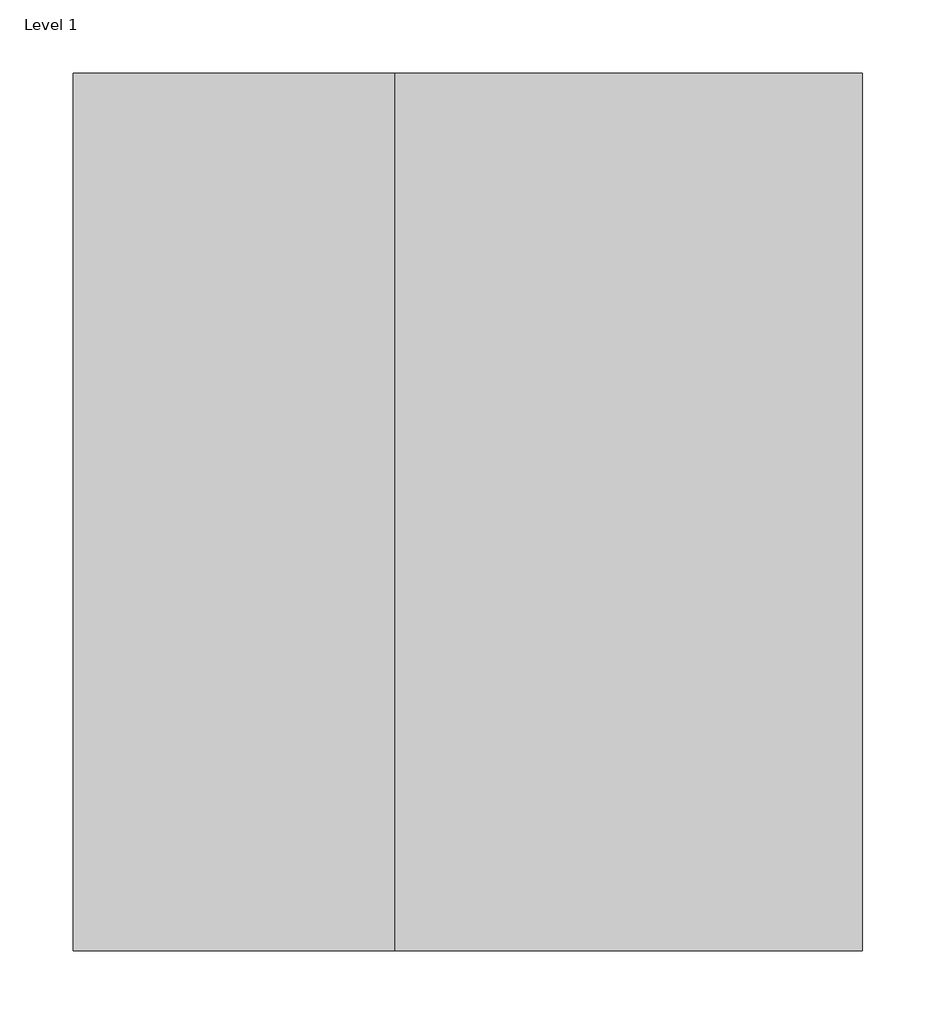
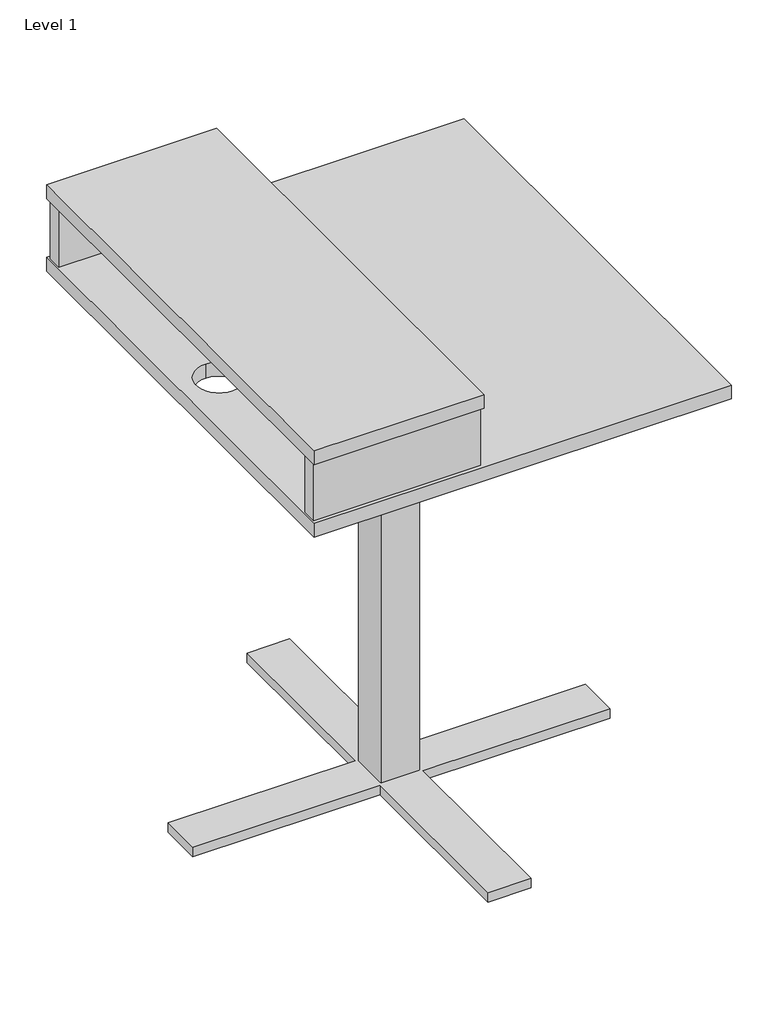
# One storey: 1 furniture element.
"""IFC4 building model written with IfcOpenShell, lengths in millimetres."""

from ifc_helpers import new_model, si_unit, origin, place, context, project, spatial, transform, mapped, element, save
from components import furniture_af698ce7

model = new_model("IFC4")

# Units and contexts
model_context = context("Model", 3, world=origin())
ifc_project = project(units=[si_unit("LENGTHUNIT", "METRE", prefix="MILLI")], contexts=[model_context])

# Site, building, storey
site = spatial("IfcSite", under=ifc_project)
building = spatial("IfcBuilding", under=site)
storey = spatial("IfcBuildingStorey", under=building, Name="Level 1", Elevation=0.0)

# Furniture
placement = place(None, origin())
furniture_shape = furniture_af698ce7(model_context)
element("IfcFurniture", 1, ObjectType="BK Library - Smaaland - Search Terminal : BK Library - Smaaland - Search Terminal", at=placement, inside=storey, context=model_context, shape_type="MappedRepresentation", body=[
    mapped(furniture_shape, transform((-2705.3707246, 2202.2774536, -348.6569781), x_axis=(0.0, 1.0, 0.0), y_axis=(-1.0, 0.0, 0.0), z_axis=(0.0, 0.0, 1.0))),
])

save(model, "model.ifc")
